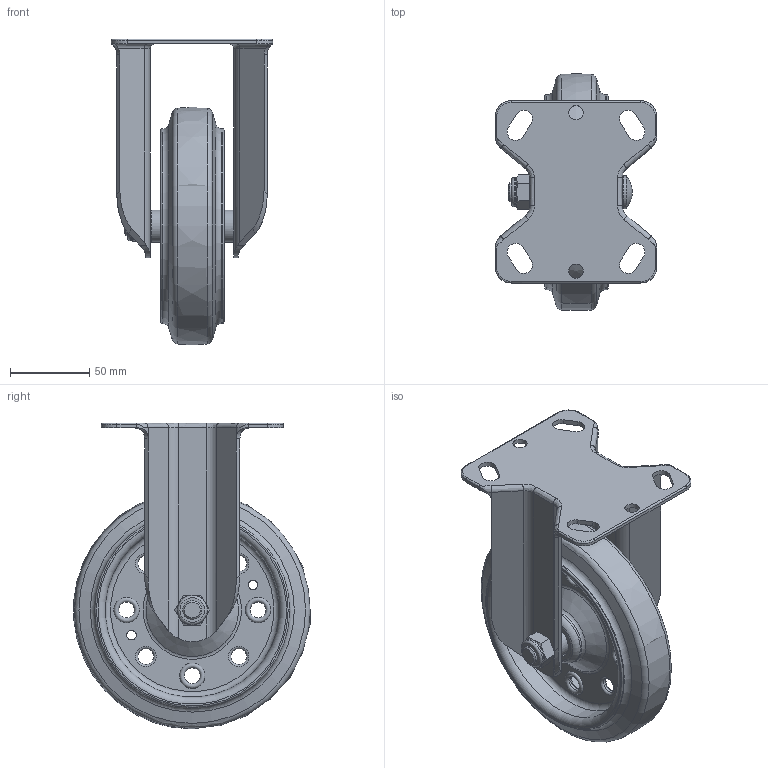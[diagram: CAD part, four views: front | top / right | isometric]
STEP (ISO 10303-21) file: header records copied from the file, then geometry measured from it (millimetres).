
FILE_DESCRIPTION(/* description */ (''),/* implementation_level */ '2;1');
FILE_NAME(/* name */ '\\Common1\d\1.기술연구소\1.\X2\C81CD488B3C4BA74C815B9AC\X0\\1.양산품\24.RT-SERIES-OK\RT-150\RT3\RT3-150 A RF-ASSY.stp',/* time_stamp */ '2015-03-16T18:25:34+09:00',/* author */ ('오창근'),/* organization */ (''),/* preprocessor_version */ 'ST-DEVELOPER v15.6',/* originating_system */ 'Autodesk Inventor 2015',/* authorisation */ '');
FILE_SCHEMA (('AUTOMOTIVE_DESIGN { 1 0 10303 214 3 1 1 }'));
Length unit declared in the file: centimetre
Products named in the file (1): RT3-150 A RF-ASSY
Bounding box: 102 x 149.22 x 193 mm (x, y, z)
Volume: 389918.8 mm3; surface area: 142240.3 mm2
Topology: 4 solids, 7 shells, 257 faces, 647 edges, 399 vertices
Faces by surface type: cylinder 82, plane 71, torus 59, bspline 25, cone 19, sphere 1
Full cylindrical faces by diameter (mm): 6 x2, 9 x2, 10 x8, 12 x2, 12.2 x1, 14.9 x1, 15.1 x1, 18.5 x1, 20.2 x3, 21 x1, 23 x2, 26.6 x3, 32 x1, 35 x2, 110 x2, 123 x2
Entity records: 8434 total; most frequent: CARTESIAN_POINT 2867, DIRECTION 1097, ORIENTED_EDGE 1054, EDGE_CURVE 527, AXIS2_PLACEMENT_3D 465, EDGE_LOOP 400, VERTEX_POINT 377, ADVANCED_FACE 257
